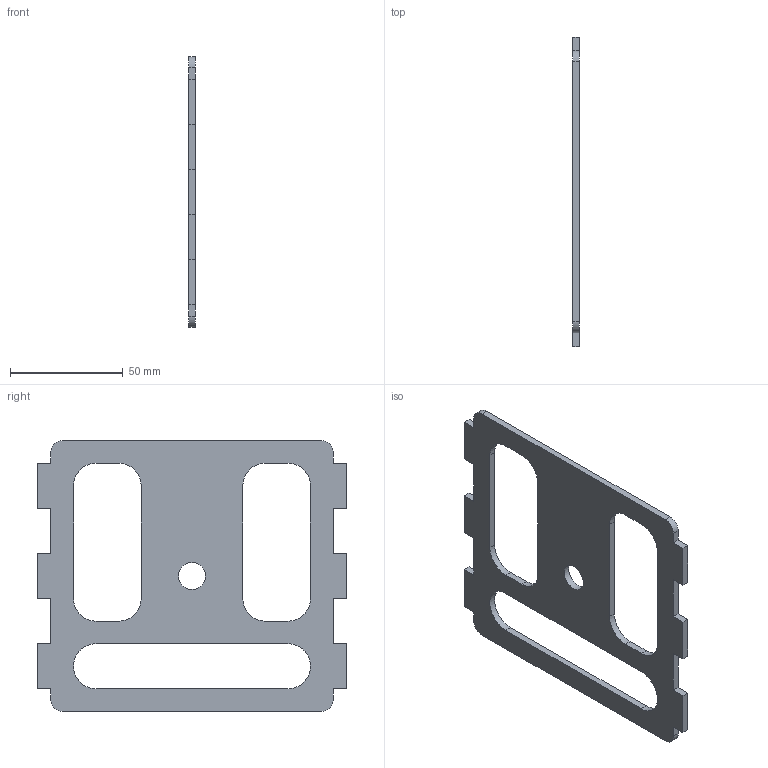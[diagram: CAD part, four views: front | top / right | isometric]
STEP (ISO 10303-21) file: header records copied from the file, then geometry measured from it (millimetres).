
FILE_DESCRIPTION(/* description */ (''),/* implementation_level */ '2;1');
FILE_NAME(/* name */ 'intermediate v22.step',/* time_stamp */ '2023-09-02T21:53:20+03:00',/* author */ (''),/* organization */ (''),/* preprocessor_version */ 'ST-DEVELOPER v20',/* originating_system */ 'Autodesk Translation Framework v12.9.0.99',/* authorisation */ '');
FILE_SCHEMA (('AUTOMOTIVE_DESIGN { 1 0 10303 214 3 1 1 }'));
Length unit declared in the file: millimetre
Products named in the file (1): intermediate
Bounding box: 3 x 137 x 120 mm (x, y, z)
Volume: 28628.9 mm3; surface area: 22654.8 mm2
Topology: 1 solids, 1 shells, 55 faces, 159 edges, 106 vertices
Faces by surface type: plane 40, cylinder 15
Full cylindrical faces by diameter (mm): 12 x1
Entity records: 1852 total; most frequent: CARTESIAN_POINT 321, ORIENTED_EDGE 318, DIRECTION 301, EDGE_CURVE 159, LINE 129, VECTOR 129, VERTEX_POINT 106, AXIS2_PLACEMENT_3D 86
